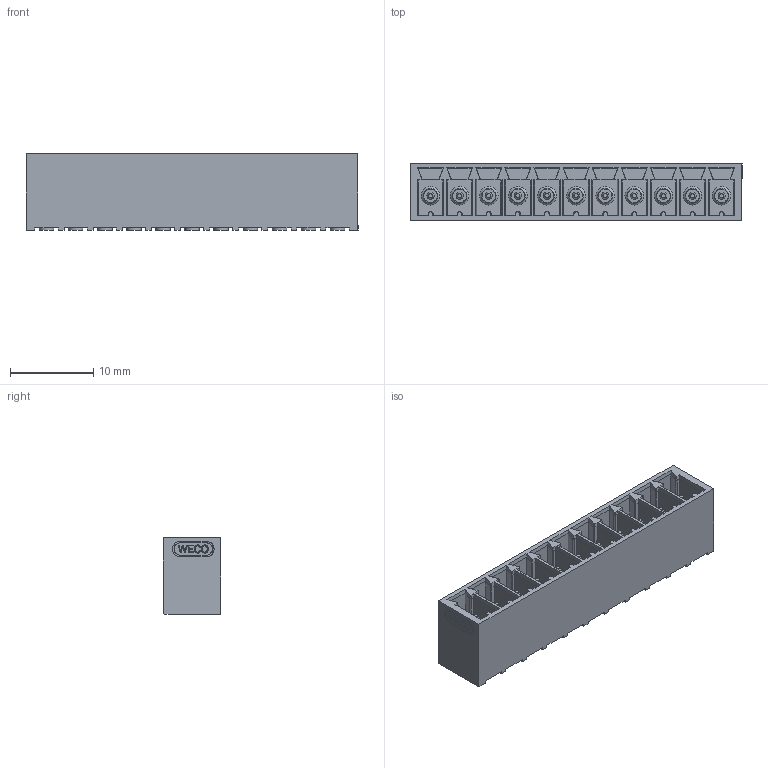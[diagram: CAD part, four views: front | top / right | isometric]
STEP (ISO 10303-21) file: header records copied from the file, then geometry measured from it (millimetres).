
FILE_DESCRIPTION (( 'STEP AP214' ), '1' );
FILE_NAME ('110-M-221-SMD-11.STEP', '2025-03-25T12:38:40', ( '' ), ( '' ), 'SwSTEP 2.0', 'SolidWorks 2016', '' );
FILE_SCHEMA (( 'AUTOMOTIVE_DESIGN' ));
Length unit declared in the file: millimetre
Products named in the file (1): 110-M-221-SMD-11
Bounding box: 39.92 x 6.9 x 9.2 mm (x, y, z)
Volume: 1193.1 mm3; surface area: 3287.5 mm2
Topology: 1 solids, 1 shells, 1114 faces, 2970 edges, 1909 vertices
Faces by surface type: plane 863, cylinder 138, cone 113
Entity records: 46397 total; most frequent: CARTESIAN_POINT 6006, ORIENTED_EDGE 5940, DIRECTION 5631, EDGE_CURVE 2970, VECTOR 2531, LINE 2531, VERTEX_POINT 1909, AXIS2_PLACEMENT_3D 1550
